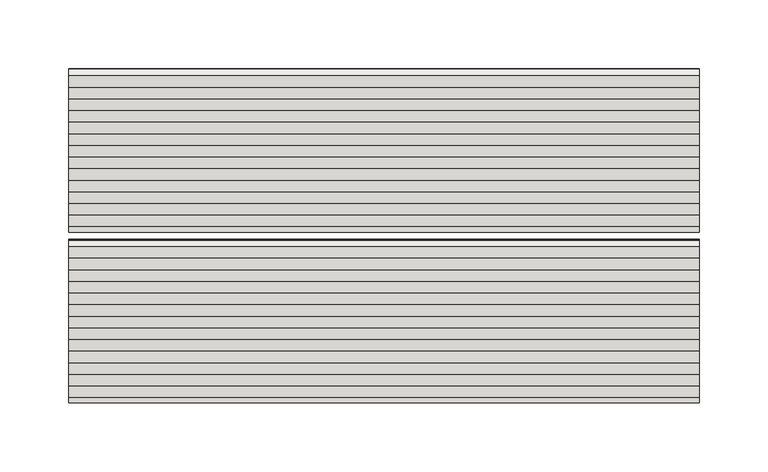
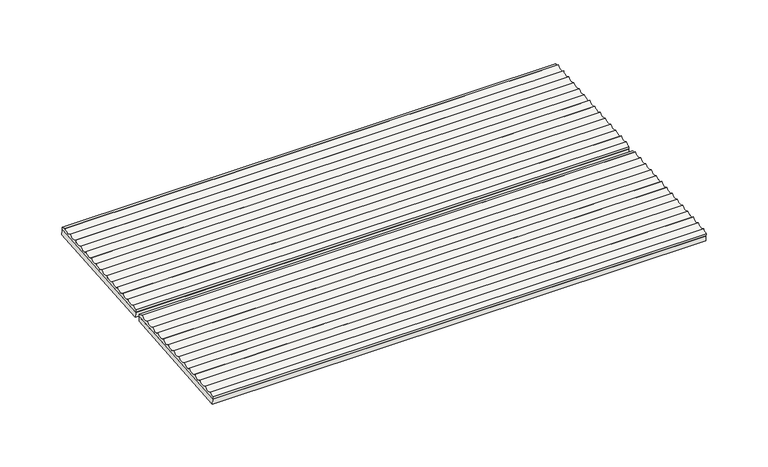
"""IFC4 building model written with IfcOpenShell, lengths in millimetres: slab geometry, ROSA GRES_001 (2 filas) : Piezas 001_Aqua_Blanco_Anti-Slip."""

import ifcopenshell
import ifcopenshell.guid

model = None  # the IFC model being written
_history = None  # IfcOwnerHistory: only IFC2X3 demands one
_inside = {}  # id of a spatial element -> (the spatial element, [elements in it])
_under = {}  # id of a project, library or spatial element -> (it, [spatial elements below it])
_declared = {}  # id of a project -> (the project, [libraries it declares])
_typed = {}  # id of a type object -> (the type object, [elements of that type])
_made_of = {}  # id of a material, layer set ... -> (it, [elements and type objects made of it])


def new_model(schema):
    """Start an empty IFC model of exactly this schema.

    Asked for "IFC4X3", IfcOpenShell would pick the latest addendum, in which some entities
    have other attributes; the version numbers below select the first issue.
    IFC2X3 requires an IfcOwnerHistory on every rooted entity: one is made here for all.
    """
    global model, _history
    if schema == "IFC4X3":
        model = ifcopenshell.file(schema_version=(4, 3, 0, 0))
    else:
        model = ifcopenshell.file(schema=schema)
    _inside.clear()
    _under.clear()
    _declared.clear()
    _typed.clear()
    _made_of.clear()
    _history = None
    if model.schema == "IFC2X3":
        org = make("IfcOrganization", Name="unknown")
        user = make(
            "IfcPersonAndOrganization",
            ThePerson=make("IfcPerson", FamilyName="unknown"),
            TheOrganization=org,
        )
        app = make(
            "IfcApplication",
            ApplicationDeveloper=org,
            Version="unknown",
            ApplicationFullName="unknown",
            ApplicationIdentifier="unknown",
        )
        _history = make(
            "IfcOwnerHistory",
            OwningUser=user,
            OwningApplication=app,
            ChangeAction="ADDED",
            CreationDate=0,
        )
    return model


def make(cls, **values):
    """One entity of the class cls with the attributes given. An attribute that is None is left unset."""
    return model.create_entity(
        cls, **{name: value for name, value in values.items() if value is not None}
    )


def rooted(cls, **values):
    """An entity with a GlobalId (a new one), such as an element, a storey or a relation."""
    return make(cls, GlobalId=ifcopenshell.guid.new(), OwnerHistory=_history, **values)


def si_unit(unit_type, name, prefix=None):
    """IfcSIUnit, for example si_unit("LENGTHUNIT", "METRE", prefix="MILLI")."""
    return make("IfcSIUnit", UnitType=unit_type, Prefix=prefix, Name=name)


def assignment(units):
    """IfcUnitAssignment: the units of a project."""
    return None if units is None else make("IfcUnitAssignment", Units=units)


def point(xyz):
    """IfcCartesianPoint."""
    return None if xyz is None else make("IfcCartesianPoint", Coordinates=xyz)


def direction(xyz):
    """IfcDirection."""
    return None if xyz is None else make("IfcDirection", DirectionRatios=xyz)


def frame(location, z_axis=None, x_axis=None):
    """IfcAxis2Placement3D, a coordinate frame: its origin and axes. An axis left out is left unset."""
    return make(
        "IfcAxis2Placement3D",
        Location=point(location),
        Axis=direction(z_axis),
        RefDirection=direction(x_axis),
    )


def frame_2d(location, x_axis=None):
    """IfcAxis2Placement2D, a coordinate frame in the plane: its origin and x axis."""
    return make(
        "IfcAxis2Placement2D", Location=point(location), RefDirection=direction(x_axis)
    )


def origin():
    """The frame at (0, 0, 0) with its axes left unset."""
    return frame((0.0, 0.0, 0.0))


def place(relative_to, where):
    """IfcLocalPlacement: puts the frame where relative to a parent placement (None: the world)."""
    return make(
        "IfcLocalPlacement", PlacementRelTo=relative_to, RelativePlacement=where
    )


def context(
    kind, dimensions, precision=None, world=None, true_north=None, identifier=None
):
    """IfcGeometricRepresentationContext, for example the 3D "Model" context."""
    return make(
        "IfcGeometricRepresentationContext",
        ContextIdentifier=identifier,
        ContextType=kind,
        CoordinateSpaceDimension=dimensions,
        Precision=precision,
        WorldCoordinateSystem=world,
        TrueNorth=true_north,
    )


def project(units=None, contexts=None):
    """IfcProject with its units and contexts."""
    return rooted(
        "IfcProject",
        Name="project",
        RepresentationContexts=contexts,
        UnitsInContext=assignment(units),
    )


def spatial(cls, under=None, at=None, **own):
    """A site, building, storey or space (cls), placed at a placement, below another one or the project."""
    s = rooted(cls, ObjectPlacement=at, **own)
    if under is not None:
        _under.setdefault(under.id(), (under, []))[1].append(s)
    return s


def polyline(points):
    """IfcPolyline through the points."""
    return make("IfcPolyline", Points=[point(p) for p in points])


def circle_curve(where, radius):
    """IfcCircle in the frame where."""
    return make("IfcCircle", Position=where, Radius=radius)


def trimmed(basis, trim1, trim2, sense, master):
    """IfcTrimmedCurve: the piece of a basis curve between two trims."""
    return make(
        "IfcTrimmedCurve",
        BasisCurve=basis,
        Trim1=trim1,
        Trim2=trim2,
        SenseAgreement=sense,
        MasterRepresentation=master,
    )


def segment(curve, same_sense, transition):
    """IfcCompositeCurveSegment."""
    return make(
        "IfcCompositeCurveSegment",
        Transition=transition,
        SameSense=same_sense,
        ParentCurve=curve,
    )


def composite_curve(segments, self_intersect=None):
    """IfcCompositeCurve: segments joined end to end."""
    return make("IfcCompositeCurve", Segments=segments, SelfIntersect=self_intersect)


def outline(outer, holes=None, kind="AREA"):
    """IfcArbitraryClosedProfileDef: a profile drawn as a closed curve; with holes, ...WithVoids."""
    if holes is None:
        return make("IfcArbitraryClosedProfileDef", ProfileType=kind, OuterCurve=outer)
    return make(
        "IfcArbitraryProfileDefWithVoids",
        ProfileType=kind,
        OuterCurve=outer,
        InnerCurves=holes,
    )


def extrude(swept, where, along, depth):
    """IfcExtrudedAreaSolid: the profile swept, set in the frame where, extruded along a direction by depth."""
    return make(
        "IfcExtrudedAreaSolid",
        SweptArea=swept,
        Position=where,
        ExtrudedDirection=direction(along),
        Depth=depth,
    )


def shape(context_of_items, identifier, shape_type, items):
    """IfcShapeRepresentation: the items that make up one representation, for example the "Body"."""
    return make(
        "IfcShapeRepresentation",
        ContextOfItems=context_of_items,
        RepresentationIdentifier=identifier,
        RepresentationType=shape_type,
        Items=items,
    )


def source(mapping_origin, context_of_items, identifier, shape_type, items):
    """IfcRepresentationMap: a shape defined once, which mapped items show again and again."""
    return make(
        "IfcRepresentationMap",
        MappingOrigin=mapping_origin,
        MappedRepresentation=shape(context_of_items, identifier, shape_type, items),
    )


def transform(
    local_origin,
    x_axis=None,
    y_axis=None,
    z_axis=None,
    scale=None,
    scale2=None,
    scale3=None,
    uniform=True,
):
    """IfcCartesianTransformationOperator3D, or its non-uniform kind. x_axis, y_axis, z_axis: its Axis1, 2, 3."""
    if uniform:
        return make(
            "IfcCartesianTransformationOperator3D",
            Axis1=direction(x_axis),
            Axis2=direction(y_axis),
            LocalOrigin=point(local_origin),
            Scale=scale,
            Axis3=direction(z_axis),
        )
    return make(
        "IfcCartesianTransformationOperator3DnonUniform",
        Axis1=direction(x_axis),
        Axis2=direction(y_axis),
        LocalOrigin=point(local_origin),
        Scale=scale,
        Axis3=direction(z_axis),
        Scale2=scale2,
        Scale3=scale3,
    )


def mapped(mapping_source, mapping_target):
    """IfcMappedItem: shows the shape of a source again, moved by a transform."""
    return make(
        "IfcMappedItem", MappingSource=mapping_source, MappingTarget=mapping_target
    )


def made_of(thing, what):
    """Note that an element or type object is made of a material, layer set ...; save() writes the relation."""
    if what is not None:
        _made_of.setdefault(what.id(), (what, []))[1].append(thing)
    return thing


def element(
    cls,
    number,
    at=None,
    inside=None,
    cuts=None,
    type_object=None,
    material=None,
    context=None,
    identifier="Body",
    shape_type=None,
    held_by="IfcProductDefinitionShape",
    body=None,
    shapes=None,
    **own,
):
    """One element of the class cls, such as IfcWall. Its Tag is "e" and its number.

    at: its placement. inside: the storey or other place that contains it. cuts: it is an
    opening in that element (IfcRelVoidsElement). A single representation is given by context,
    identifier, shape_type and body (its items); several are given by shapes. held_by: the class
    of the entity that holds the representations. save() writes the other relations.
    """
    e = rooted(cls, Tag="e%d" % number, ObjectPlacement=at, **own)
    if body is not None:
        shapes = [shape(context, identifier, shape_type, body)]
    if shapes is not None:
        e.Representation = make(held_by, Representations=shapes)
    if inside is not None:
        _inside.setdefault(inside.id(), (inside, []))[1].append(e)
    if cuts is not None:
        rooted(
            "IfcRelVoidsElement", RelatingBuildingElement=cuts, RelatedOpeningElement=e
        )
    if type_object is not None:
        _typed.setdefault(type_object.id(), (type_object, []))[1].append(e)
    return made_of(e, material)


def aggregate(whole, parts):
    """IfcRelAggregates: a whole, such as a stair, and the parts it consists of."""
    return rooted("IfcRelAggregates", RelatingObject=whole, RelatedObjects=parts)


def save(model, path):
    """Write the relations noted so far, then the file.

    IfcRelAggregates (storeys below a building ...), IfcRelContainedInSpatialStructure (elements
    in a storey), IfcRelDefinesByType, IfcRelAssociatesMaterial and IfcRelDeclares: one each for
    every whole, place, type object, material and project.
    """
    for whole, parts in _under.values():
        aggregate(whole, parts)
    for where, things in _inside.values():
        rooted(
            "IfcRelContainedInSpatialStructure",
            RelatedElements=things,
            RelatingStructure=where,
        )
    for kind, things in _typed.values():
        rooted("IfcRelDefinesByType", RelatedObjects=things, RelatingType=kind)
    for what, things in _made_of.values():
        rooted("IfcRelAssociatesMaterial", RelatedObjects=things, RelatingMaterial=what)
    for by, libraries in _declared.values():
        rooted("IfcRelDeclares", RelatingContext=by, RelatedDefinitions=libraries)
    model.write(path)


def slab_71a26456(model_context):
    return source(origin(), model_context, "Body", "SweptSolid", [
        extrude(outline(polyline([(59.4997999, 0.0), (-59.4998, 0.0), (-59.4998, 460.0), (59.4997999, 460.0), (59.4997999, 0.0)])), frame((460.0, 183.3614376, 204.5238637), z_axis=(0.0, -0.08112705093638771, 0.9967037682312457), x_axis=(0.0, 0.9967037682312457, 0.08112705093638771)), (0.0, 0.0, 1.0), 5.0),
        extrude(outline(polyline([(59.4998, 0.0), (-59.4997999, 0.0), (-59.4997999, 460.0), (59.4998, 460.0), (59.4998, 0.0)])), frame((460.0, 307.9490099, 214.6647126), z_axis=(0.0, -0.08112705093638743, 0.9967037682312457), x_axis=(0.0, 0.9967037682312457, 0.08112705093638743)), (0.0, 0.0, 1.0), 5.0),
        extrude(outline(composite_curve([segment(polyline([(242.2594772, 214.3344258), (123.6521274, 204.6803392), (123.4389282, 207.2996439)]), True, "CONTINUOUS"), segment(trimmed(circle_curve(frame_2d((122.9853249, 212.8724843)), 5.5912705), [point((123.4389282, 207.2996439))], [point((127.5160501, 209.5960785))], True, "CARTESIAN"), True, "CONTINUOUS"), segment(trimmed(circle_curve(frame_2d((131.4572785, 213.5620619)), 5.5912705), [point((127.5160501, 209.5960785))], [point((135.9880037, 210.2856561))], True, "CARTESIAN"), True, "CONTINUOUS"), segment(trimmed(circle_curve(frame_2d((139.929232, 214.2516395)), 5.5912705), [point((135.9880037, 210.2856561))], [point((144.4599572, 210.9752337))], True, "CARTESIAN"), True, "CONTINUOUS"), segment(trimmed(circle_curve(frame_2d((148.4011856, 214.9412171)), 5.5912705), [point((144.4599572, 210.9752337))], [point((152.9319108, 211.6648113))], True, "CARTESIAN"), True, "CONTINUOUS"), segment(trimmed(circle_curve(frame_2d((156.8731392, 215.6307947)), 5.5912705), [point((152.9319108, 211.6648113))], [point((161.4038643, 212.3543889))], True, "CARTESIAN"), True, "CONTINUOUS"), segment(trimmed(circle_curve(frame_2d((165.3450927, 216.3203723)), 5.5912705), [point((161.4038643, 212.3543889))], [point((169.8758179, 213.0439666))], True, "CARTESIAN"), True, "CONTINUOUS"), segment(trimmed(circle_curve(frame_2d((173.8170463, 217.00995)), 5.5912705), [point((169.8758179, 213.0439666))], [point((178.3477714, 213.7335442))], True, "CARTESIAN"), True, "CONTINUOUS"), segment(trimmed(circle_curve(frame_2d((182.2889998, 217.6995276)), 5.5912705), [point((178.3477714, 213.7335442))], [point((186.819725, 214.4231218))], True, "CARTESIAN"), True, "CONTINUOUS"), segment(trimmed(circle_curve(frame_2d((190.7609534, 218.3891052)), 5.5912705), [point((186.819725, 214.4231218))], [point((195.2916785, 215.1126994))], True, "CARTESIAN"), True, "CONTINUOUS"), segment(trimmed(circle_curve(frame_2d((199.2329069, 219.0786828)), 5.5912705), [point((195.2916785, 215.1126994))], [point((203.7636321, 215.802277))], True, "CARTESIAN"), True, "CONTINUOUS"), segment(trimmed(circle_curve(frame_2d((207.7048605, 219.7682604)), 5.5912705), [point((203.7636321, 215.802277))], [point((212.2355856, 216.4918546))], True, "CARTESIAN"), True, "CONTINUOUS"), segment(trimmed(circle_curve(frame_2d((216.176814, 220.457838)), 5.5912705), [point((212.2355856, 216.4918546))], [point((220.7075392, 217.1814322))], True, "CARTESIAN"), True, "CONTINUOUS"), segment(trimmed(circle_curve(frame_2d((224.6487676, 221.1474157)), 5.5912705), [point((220.7075392, 217.1814322))], [point((229.1794928, 217.8710099))], True, "CARTESIAN"), True, "CONTINUOUS"), segment(trimmed(circle_curve(frame_2d((233.1207211, 221.8369933)), 5.5912705), [point((229.1794928, 217.8710099))], [point((237.6514463, 218.5605875))], True, "CARTESIAN"), True, "CONTINUOUS"), segment(trimmed(circle_curve(frame_2d((241.5926747, 222.5265709)), 5.5912705), [point((237.6514463, 218.5605875))], [point((242.046278, 216.9537305))], True, "CARTESIAN"), True, "CONTINUOUS"), segment(polyline([(242.046278, 216.9537305), (242.2594772, 214.3344258)]), True, "CONTINUOUS")], self_intersect=False)), frame((0.0, 0.0, 0.0), z_axis=(1.0, 0.0, 0.0), x_axis=(0.0, 1.0, 0.0)), (0.0, 0.0, 1.0), 460.0),
        extrude(outline(composite_curve([segment(polyline([(366.8470495, 224.4752747), (248.2396998, 214.8211881), (248.0265006, 217.4404928)]), True, "CONTINUOUS"), segment(trimmed(circle_curve(frame_2d((247.5728973, 223.0133332)), 5.5912705), [point((248.0265006, 217.4404928))], [point((252.1036225, 219.7369274))], True, "CARTESIAN"), True, "CONTINUOUS"), segment(trimmed(circle_curve(frame_2d((256.0448508, 223.7029108)), 5.5912705), [point((252.1036225, 219.7369274))], [point((260.575576, 220.426505))], True, "CARTESIAN"), True, "CONTINUOUS"), segment(trimmed(circle_curve(frame_2d((264.5168044, 224.3924884)), 5.5912705), [point((260.575576, 220.426505))], [point((269.0475296, 221.1160826))], True, "CARTESIAN"), True, "CONTINUOUS"), segment(trimmed(circle_curve(frame_2d((272.9887579, 225.082066)), 5.5912705), [point((269.0475296, 221.1160826))], [point((277.5194831, 221.8056602))], True, "CARTESIAN"), True, "CONTINUOUS"), segment(trimmed(circle_curve(frame_2d((281.4607115, 225.7716436)), 5.5912705), [point((277.5194831, 221.8056602))], [point((285.9914367, 222.4952379))], True, "CARTESIAN"), True, "CONTINUOUS"), segment(trimmed(circle_curve(frame_2d((289.9326651, 226.4612213)), 5.5912705), [point((285.9914367, 222.4952379))], [point((294.4633902, 223.1848155))], True, "CARTESIAN"), True, "CONTINUOUS"), segment(trimmed(circle_curve(frame_2d((298.4046186, 227.1507989)), 5.5912705), [point((294.4633902, 223.1848155))], [point((302.9353438, 223.8743931))], True, "CARTESIAN"), True, "CONTINUOUS"), segment(trimmed(circle_curve(frame_2d((306.8765722, 227.8403765)), 5.5912705), [point((302.9353438, 223.8743931))], [point((311.4072973, 224.5639707))], True, "CARTESIAN"), True, "CONTINUOUS"), segment(trimmed(circle_curve(frame_2d((315.3485257, 228.5299541)), 5.5912705), [point((311.4072973, 224.5639707))], [point((319.8792509, 225.2535483))], True, "CARTESIAN"), True, "CONTINUOUS"), segment(trimmed(circle_curve(frame_2d((323.8204793, 229.2195317)), 5.5912705), [point((319.8792509, 225.2535483))], [point((328.3512044, 225.9431259))], True, "CARTESIAN"), True, "CONTINUOUS"), segment(trimmed(circle_curve(frame_2d((332.2924328, 229.9091093)), 5.5912705), [point((328.3512044, 225.9431259))], [point((336.823158, 226.6327035))], True, "CARTESIAN"), True, "CONTINUOUS"), segment(trimmed(circle_curve(frame_2d((340.7643864, 230.5986869)), 5.5912705), [point((336.823158, 226.6327035))], [point((345.2951115, 227.3222812))], True, "CARTESIAN"), True, "CONTINUOUS"), segment(trimmed(circle_curve(frame_2d((349.2363399, 231.2882646)), 5.5912705), [point((345.2951115, 227.3222812))], [point((353.7670651, 228.0118588))], True, "CARTESIAN"), True, "CONTINUOUS"), segment(trimmed(circle_curve(frame_2d((357.7082935, 231.9778422)), 5.5912705), [point((353.7670651, 228.0118588))], [point((362.2390187, 228.7014364))], True, "CARTESIAN"), True, "CONTINUOUS"), segment(trimmed(circle_curve(frame_2d((366.180247, 232.6674198)), 5.5912705), [point((362.2390187, 228.7014364))], [point((366.6338503, 227.0945794))], True, "CARTESIAN"), True, "CONTINUOUS"), segment(polyline([(366.6338503, 227.0945794), (366.8470495, 224.4752747)]), True, "CONTINUOUS")], self_intersect=False)), frame((0.0, 0.0, 0.0), z_axis=(1.0, 0.0, 0.0), x_axis=(0.0, 1.0, 0.0)), (0.0, 0.0, 1.0), 460.0),
    ])


if __name__ == "__main__":
    model = new_model("IFC4")
    model_context = context("Model", 3, world=origin())
    ifc_project = project(units=[si_unit("LENGTHUNIT", "METRE", prefix="MILLI")], contexts=[model_context])
    site = spatial("IfcSite", under=ifc_project)
    building = spatial("IfcBuilding", under=site)
    placement = place(None, origin())
    slab_shape = slab_71a26456(model_context)
    element("IfcSlab", 1, ObjectType="ROSA GRES_001 (2 filas) : Piezas 001_Aqua_Blanco_Anti-Slip", at=placement, inside=building, context=model_context, shape_type="MappedRepresentation", body=[
        mapped(slab_shape, transform((0.0, 0.0, 0.0), x_axis=(1.0, 0.0, 0.0), y_axis=(0.0, 1.0, 0.0), z_axis=(0.0, 0.0, 1.0))),
    ])
    save(model, "model.ifc")
